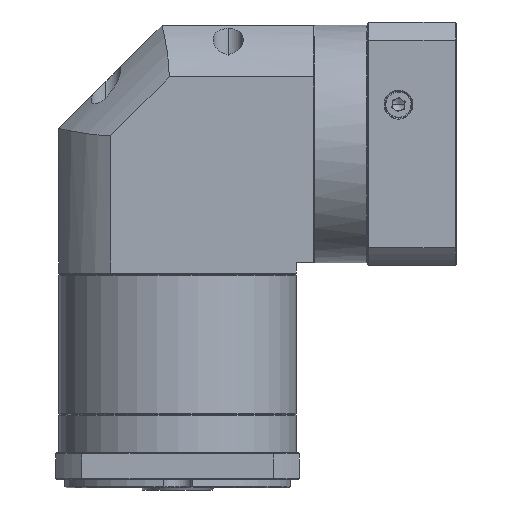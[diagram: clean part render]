
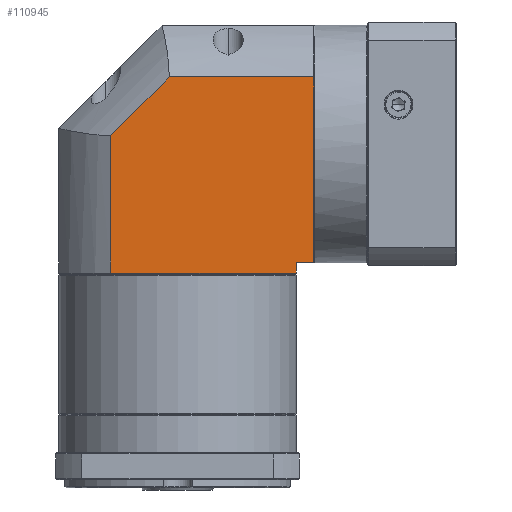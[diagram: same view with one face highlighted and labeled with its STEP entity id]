
A CAD part, front view. The second image highlights one B-rep face of the part: STEP entity #110945.
In plain terms, the highlighted planar face has unit normal (0, -1, 0).
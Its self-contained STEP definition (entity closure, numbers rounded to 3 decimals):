
#995 = VERTEX_POINT ( 'NONE', #6782 ) ;
#6216 = VERTEX_POINT ( 'NONE', #13327 ) ;
#6782 = CARTESIAN_POINT ( 'NONE',  ( 12.933, 11.319, 13.617 ) ) ;
#13327 = CARTESIAN_POINT ( 'NONE',  ( 111.233, 11.319, -47.945 ) ) ;
#13423 = DIRECTION ( 'NONE',  ( 0., 0., 1. ) ) ;
#16701 = CARTESIAN_POINT ( 'NONE',  ( -12.167, 11.319, -47.945 ) ) ;
#17440 = CARTESIAN_POINT ( 'NONE',  ( -12.167, 11.319, -52.945 ) ) ;
#19588 = VECTOR ( 'NONE', #29143, 1000. ) ;
#21283 = CARTESIAN_POINT ( 'NONE',  ( 12.933, 11.319, -59.445 ) ) ;
#29143 = DIRECTION ( 'NONE',  ( 0., 0., -1. ) ) ;
#29420 = AXIS2_PLACEMENT_3D ( 'NONE', #61650, #111553, #72013 ) ;
#31644 = LINE ( 'NONE', #17440, #54871 ) ;
#35166 = LINE ( 'NONE', #58963, #19588 ) ;
#36396 = ORIENTED_EDGE ( 'NONE', *, *, #65642, .F. ) ;
#37438 = VERTEX_POINT ( 'NONE', #76351 ) ;
#41098 = ORIENTED_EDGE ( 'NONE', *, *, #67034, .F. ) ;
#43664 = VECTOR ( 'NONE', #105834, 1000. ) ;
#44141 = EDGE_CURVE ( 'NONE', #59742, #37438, #31644, .T. ) ;
#46868 = LINE ( 'NONE', #98756, #71499 ) ;
#53925 = LINE ( 'NONE', #114129, #100454 ) ;
#54871 = VECTOR ( 'NONE', #68469, 1000. ) ;
#55169 = DIRECTION ( 'NONE',  ( 1., 0., 0. ) ) ;
#55478 = CARTESIAN_POINT ( 'NONE',  ( 111.233, 11.319, 41.955 ) ) ;
#58804 = CARTESIAN_POINT ( 'NONE',  ( 102.833, 11.319, -47.945 ) ) ;
#58963 = CARTESIAN_POINT ( 'NONE',  ( 102.833, 11.319, -59.445 ) ) ;
#59742 = VERTEX_POINT ( 'NONE', #90353 ) ;
#61233 = PLANE ( 'NONE',  #29420 ) ;
#61650 = CARTESIAN_POINT ( 'NONE',  ( -12.167, 11.319, -59.445 ) ) ;
#64100 = VECTOR ( 'NONE', #85949, 1000. ) ;
#65047 = CARTESIAN_POINT ( 'NONE',  ( 111.233, 11.319, -59.445 ) ) ;
#65642 = EDGE_CURVE ( 'NONE', #37438, #995, #119439, .T. ) ;
#66417 = VERTEX_POINT ( 'NONE', #94729 ) ;
#67034 = EDGE_CURVE ( 'NONE', #100045, #6216, #99486, .T. ) ;
#68469 = DIRECTION ( 'NONE',  ( -1., 0., 0. ) ) ;
#71499 = VECTOR ( 'NONE', #108329, 1000. ) ;
#72013 = DIRECTION ( 'NONE',  ( 1., 0., 0. ) ) ;
#74302 = VECTOR ( 'NONE', #13423, 1000. ) ;
#76351 = CARTESIAN_POINT ( 'NONE',  ( 12.933, 11.319, -52.945 ) ) ;
#78536 = ORIENTED_EDGE ( 'NONE', *, *, #107693, .F. ) ;
#83555 = EDGE_CURVE ( 'NONE', #66417, #100045, #53925, .T. ) ;
#84667 = FACE_OUTER_BOUND ( 'NONE', #92254, .T. ) ;
#85949 = DIRECTION ( 'NONE',  ( -1., 0., 0. ) ) ;
#90353 = CARTESIAN_POINT ( 'NONE',  ( 102.833, 11.319, -52.945 ) ) ;
#92254 = EDGE_LOOP ( 'NONE', ( #78536, #112179, #41098, #112746, #109908, #36396, #93662 ) ) ;
#93325 = EDGE_CURVE ( 'NONE', #6216, #108119, #123108, .T. ) ;
#93662 = ORIENTED_EDGE ( 'NONE', *, *, #44141, .F. ) ;
#94729 = CARTESIAN_POINT ( 'NONE',  ( 41.271, 11.319, 41.955 ) ) ;
#98756 = CARTESIAN_POINT ( 'NONE',  ( 12.933, 11.319, 13.617 ) ) ;
#99486 = LINE ( 'NONE', #65047, #43664 ) ;
#100045 = VERTEX_POINT ( 'NONE', #55478 ) ;
#100454 = VECTOR ( 'NONE', #55169, 1000. ) ;
#105834 = DIRECTION ( 'NONE',  ( 0., 0., -1. ) ) ;
#107693 = EDGE_CURVE ( 'NONE', #108119, #59742, #35166, .T. ) ;
#108119 = VERTEX_POINT ( 'NONE', #58804 ) ;
#108329 = DIRECTION ( 'NONE',  ( 0.707, 0., 0.707 ) ) ;
#109908 = ORIENTED_EDGE ( 'NONE', *, *, #117981, .F. ) ;
#110945 = ADVANCED_FACE ( 'NONE', ( #84667 ), #61233, .F. ) ;
#111553 = DIRECTION ( 'NONE',  ( 0., 1., 0. ) ) ;
#112179 = ORIENTED_EDGE ( 'NONE', *, *, #93325, .F. ) ;
#112746 = ORIENTED_EDGE ( 'NONE', *, *, #83555, .F. ) ;
#114129 = CARTESIAN_POINT ( 'NONE',  ( -12.167, 11.319, 41.955 ) ) ;
#117981 = EDGE_CURVE ( 'NONE', #995, #66417, #46868, .T. ) ;
#119439 = LINE ( 'NONE', #21283, #74302 ) ;
#123108 = LINE ( 'NONE', #16701, #64100 ) ;
